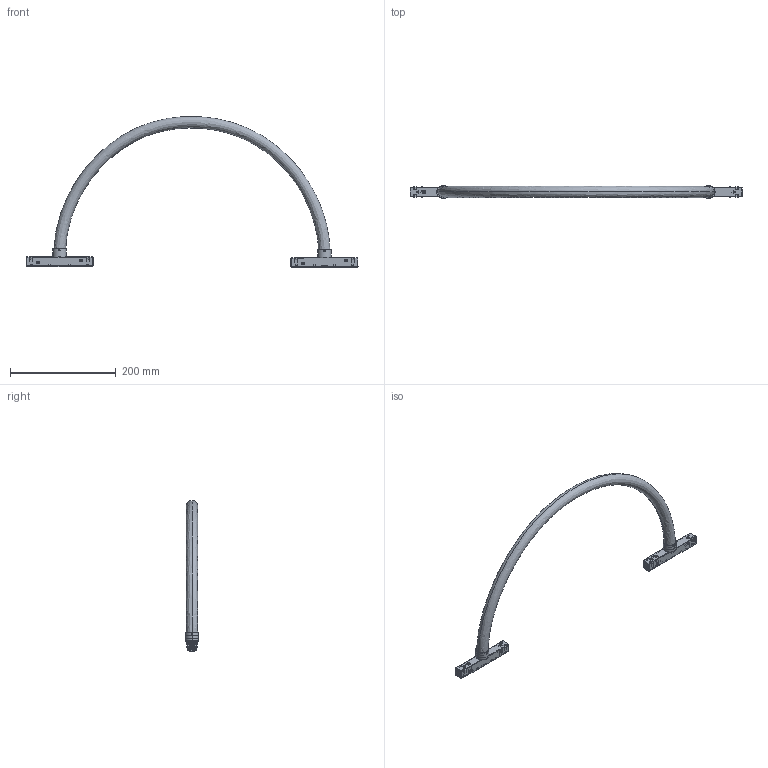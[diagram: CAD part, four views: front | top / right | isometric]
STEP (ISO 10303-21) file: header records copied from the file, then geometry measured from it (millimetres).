
FILE_DESCRIPTION((''),'2;1');
FILE_NAME('YJD22U_ASM','2025-03-25T15:05:46',('Administrator'),(''),'CREO PARAMETRIC BY PTC INC, 2020053','CREO PARAMETRIC BY PTC INC, 2020053','');
FILE_SCHEMA(('CONFIG_CONTROL_DESIGN'));
Products named in the file (18): GT; RUANJ; WG; WG1; GT1; 3WK; 25CTG; LG; KP; TT-1; GDK; TH-4; 25X5X2CT20C; CTZJ20C; AN2; AJTH; 3DMK_ASM; YJD22U_ASM
Assembly tree (23 placements, depth 3):
  YJD22U_ASM
    GT
    RUANJ
    WG
    WG1
    GT1
    3DMK_ASM  x2
      3WK
      25CTG
      LG
      KP
      TT-1
      GDK
      TH-4
      25X5X2CT20C
      CTZJ20C
      AN2
      AJTH
Bounding box: 626.56 x 25 x 284.44 mm (x, y, z)
Volume: 324193.5 mm3; surface area: 115702.4 mm2
Topology: 37 solids, 45 shells, 3626 faces, 9552 edges, 6068 vertices
Faces by surface type: plane 2384, cylinder 622, bspline 566, sphere 32, cone 14, torus 8
Entity records: 70098 total; most frequent: CARTESIAN_POINT 33678, ORIENTED_EDGE 7958, DIRECTION 6660, EDGE_CURVE 3979, VECTOR 3200, LINE 3200, VERTEX_POINT 2570, AXIS2_PLACEMENT_3D 1730
